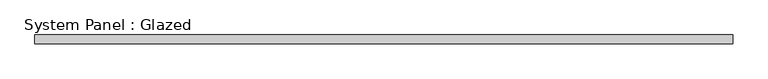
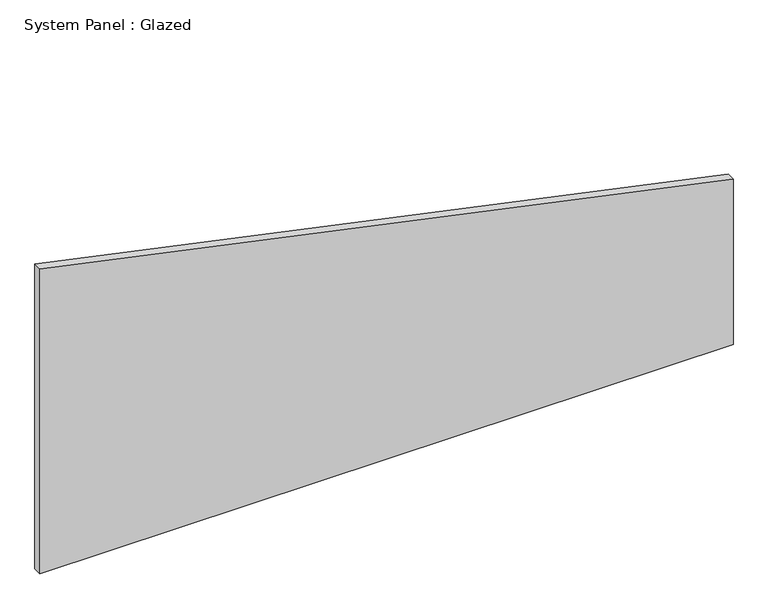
"""IFC4 building model written with IfcOpenShell, lengths in millimetres: plate geometry, System Panel : Glazed."""

from ifc_helpers import new_model, si_unit, frame, origin, place, context, project, spatial, polyline, outline, extrude, source, transform, mapped, element, save


def system_panel_glazed_3117e7c3(model_context):
    return source(origin(), model_context, "Body", "SweptSolid", [
        extrude(outline(polyline([(0.0, -1000.0), (0.0, 1000.0), (504.821834, 1000.0), (929.9349573, -1000.0), (0.0, -1000.0)])), frame((0.0, 24.5, 0.0), z_axis=(0.0, 1.0, 0.0), x_axis=(0.0, 0.0, 1.0)), (0.0, 0.0, 1.0), 25.0),
    ])


if __name__ == "__main__":
    model = new_model("IFC4")
    model_context = context("Model", 3, world=origin())
    ifc_project = project(units=[si_unit("LENGTHUNIT", "METRE", prefix="MILLI")], contexts=[model_context])
    site = spatial("IfcSite", under=ifc_project)
    building = spatial("IfcBuilding", under=site)
    placement = place(None, origin())
    system_panel_glazed_shape = system_panel_glazed_3117e7c3(model_context)
    element("IfcPlate", 1, ObjectType="System Panel : Glazed", at=placement, inside=building, context=model_context, shape_type="MappedRepresentation", body=[
        mapped(system_panel_glazed_shape, transform((0.0, 0.0, 0.0), x_axis=(1.0, 0.0, 0.0), y_axis=(0.0, 1.0, 0.0), z_axis=(0.0, 0.0, 1.0))),
    ])
    save(model, "model.ifc")
